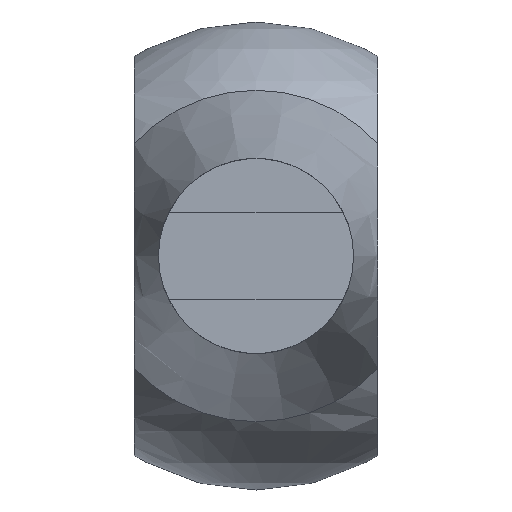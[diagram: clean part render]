
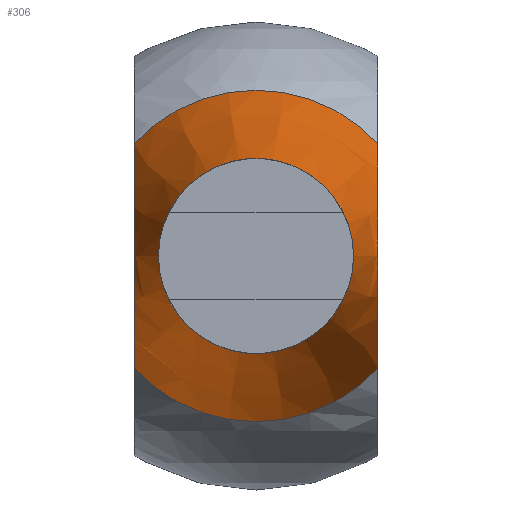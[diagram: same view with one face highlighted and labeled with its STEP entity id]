
A CAD part, front view. The second image highlights one B-rep face of the part: STEP entity #306.
In plain terms, the highlighted conical face has half-angle 15.068 degrees and reference radius 0.844 mm.
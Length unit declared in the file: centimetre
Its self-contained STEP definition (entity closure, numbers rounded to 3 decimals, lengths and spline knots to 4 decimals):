
#140=CONICAL_SURFACE('',#944,0.0844,0.263);
#154=VERTEX_POINT('',#1233);
#155=VERTEX_POINT('',#1238);
#156=VERTEX_POINT('',#1239);
#161=VERTEX_POINT('',#1252);
#162=VERTEX_POINT('',#1258);
#179=EDGE_CURVE('',#154,#154,#367,.T.);
#180=EDGE_CURVE('',#155,#156,#566,.T.);
#187=EDGE_CURVE('',#155,#161,#371,.T.);
#189=EDGE_CURVE('',#162,#161,#567,.T.);
#191=EDGE_CURVE('',#162,#156,#371,.T.);
#241=ORIENTED_EDGE('',*,*,#180,.T.);
#242=ORIENTED_EDGE('',*,*,#191,.F.);
#243=ORIENTED_EDGE('',*,*,#189,.T.);
#244=ORIENTED_EDGE('',*,*,#187,.F.);
#245=ORIENTED_EDGE('',*,*,#179,.T.);
#269=EDGE_LOOP('',(#241,#242,#243,#244));
#270=EDGE_LOOP('',(#245));
#291=FACE_BOUND('',#269,.T.);
#292=FACE_BOUND('',#270,.T.);
#306=ADVANCED_FACE('',(#291,#292),#140,.T.);
#367=CIRCLE('',#935,0.0625);
#371=CIRCLE('',#942,0.1063);
#566=(
BOUNDED_CURVE()
B_SPLINE_CURVE(2,(#1235,#1236,#1237),.UNSPECIFIED.,.F.,.U.)
B_SPLINE_CURVE_WITH_KNOTS((3,3),(0.,0.2539),.UNSPECIFIED.)
CURVE()
GEOMETRIC_REPRESENTATION_ITEM()
RATIONAL_B_SPLINE_CURVE((1.,1.36,1.))
REPRESENTATION_ITEM('')
);
#567=(
BOUNDED_CURVE()
B_SPLINE_CURVE(2,(#1255,#1256,#1257),.UNSPECIFIED.,.F.,.U.)
B_SPLINE_CURVE_WITH_KNOTS((3,3),(0.,0.2539),.UNSPECIFIED.)
CURVE()
GEOMETRIC_REPRESENTATION_ITEM()
RATIONAL_B_SPLINE_CURVE((1.,1.36,1.))
REPRESENTATION_ITEM('')
);
#935=AXIS2_PLACEMENT_3D('',#1232,#1353,#1354);
#942=AXIS2_PLACEMENT_3D('',#1251,#1368,#1369);
#944=AXIS2_PLACEMENT_3D('',#1260,#1373,#1374);
#1232=CARTESIAN_POINT('',(0.,0.2,0.));
#1233=CARTESIAN_POINT('',(-0.0625,0.2,0.));
#1235=CARTESIAN_POINT('',(-0.0781,0.3625,0.072));
#1236=CARTESIAN_POINT('',(-0.0781,0.1811,0.));
#1237=CARTESIAN_POINT('',(-0.0781,0.3625,-0.072));
#1238=CARTESIAN_POINT('',(-0.0781,0.3625,0.072));
#1239=CARTESIAN_POINT('',(-0.0781,0.3625,-0.072));
#1251=CARTESIAN_POINT('',(0.,0.3625,0.));
#1252=CARTESIAN_POINT('',(0.0781,0.3625,0.072));
#1255=CARTESIAN_POINT('',(0.0781,0.3625,-0.072));
#1256=CARTESIAN_POINT('',(0.0781,0.1811,0.));
#1257=CARTESIAN_POINT('',(0.0781,0.3625,0.072));
#1258=CARTESIAN_POINT('',(0.0781,0.3625,-0.072));
#1260=CARTESIAN_POINT('',(0.,0.2813,0.));
#1353=DIRECTION('',(0.,1.,0.));
#1354=DIRECTION('',(-0.063,0.,0.));
#1368=DIRECTION('',(0.,1.,0.));
#1369=DIRECTION('',(-0.106,0.,0.));
#1373=DIRECTION('',(0.,1.,0.));
#1374=DIRECTION('',(-0.084,0.,0.));
